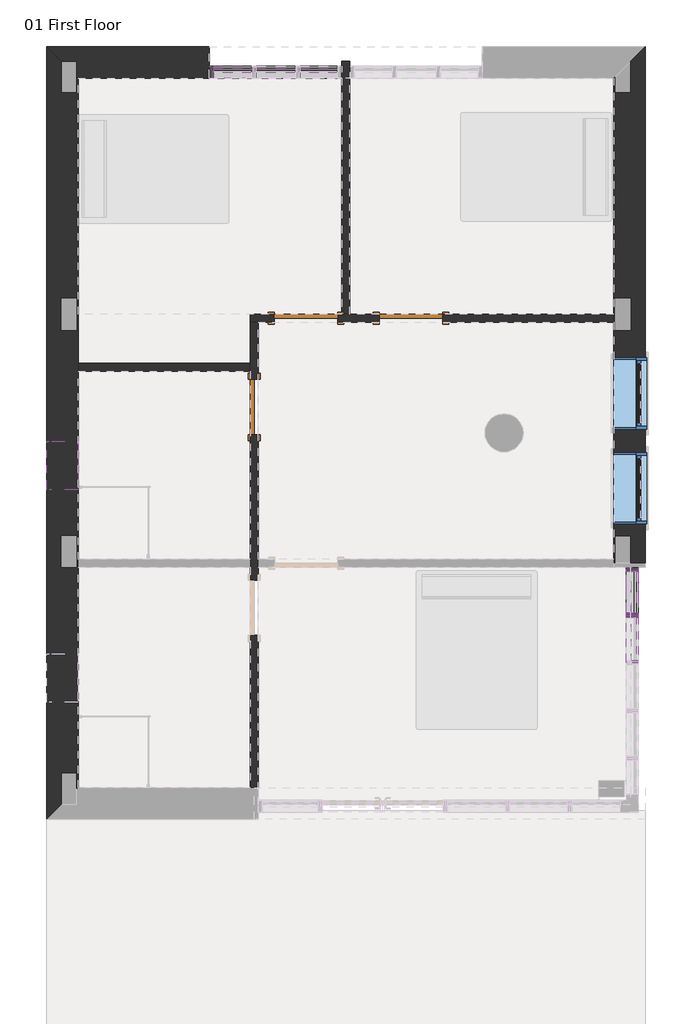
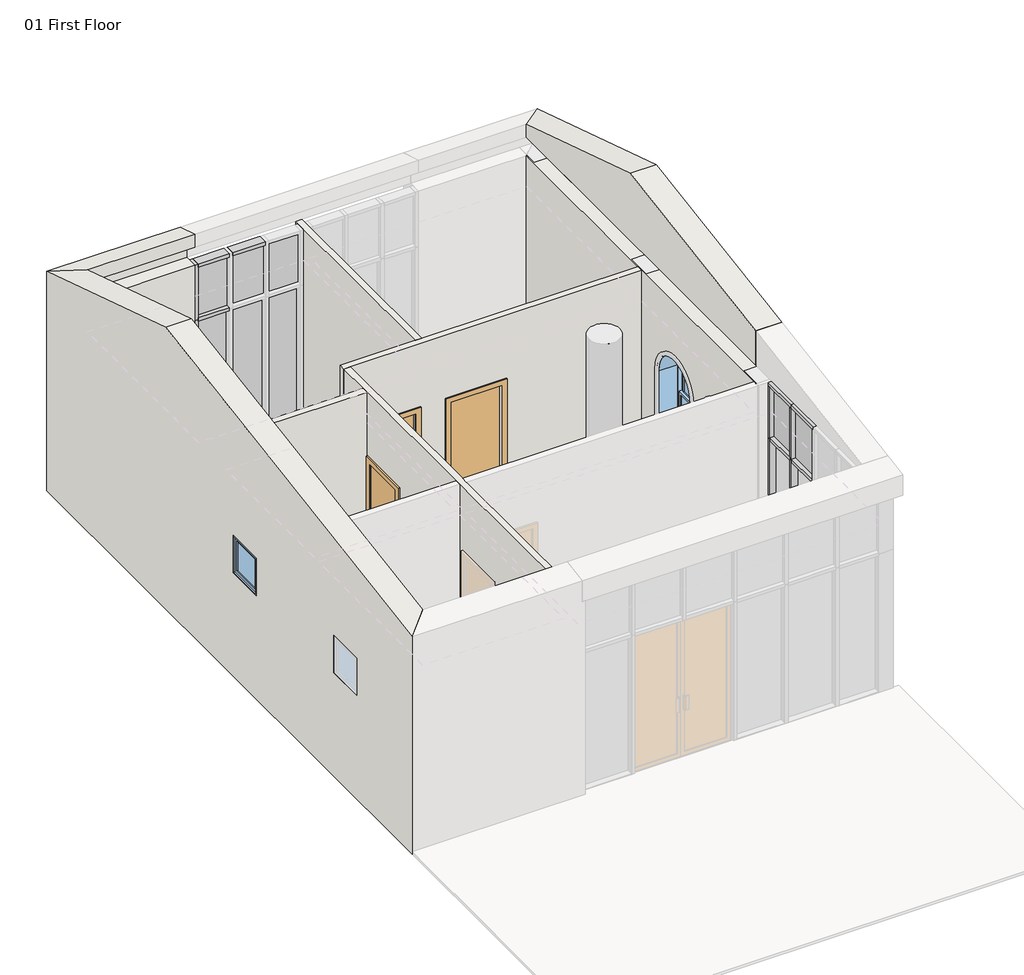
# One storey, part 2 of 3: 17 members, 8 plates, 7 walls, 3 doors, 3 windows.
"""IFC4 building model written with IfcOpenShell, lengths in millimetres."""

from ifc_helpers import new_model, si_unit, frame, origin, place, context, project, spatial, polyline, circle_curve, outline, extrude, faceted_brep, transform, mapped, element, save
from ifc_brep_helpers import plane_surface, revolved_surface, advanced_brep
from components import m_single_flush_0700_x_2100mm_23326b45, m_single_flush_0800_x_2100mm_e1c1bfab, m_single_flush_0800_x_2100mm_5931a049, rectangular_mullion_50_x_150mm_8753ce05, rectangular_mullion_50_x_150mm_f70f74d1, rectangular_mullion_50_x_150mm_f478ca5a, rectangular_mullion_50_x_150mm_324a6438, rectangular_mullion_50_x_150mm_d1e66009, rectangular_mullion_50_x_150mm_6b054e58, rectangular_mullion_50_x_150mm_158f91f9, rectangular_mullion_50_x_150mm_35d6a770, rectangular_mullion_50_x_150mm_7a805af3, rectangular_mullion_50_x_150mm_27f82533, rectangular_mullion_50_x_150mm_15dee4e3, rectangular_mullion_50_x_150mm_af0ba744, rectangular_mullion_50_x_150mm_731e338c, system_panel_glazed_5d80e23d, system_panel_glazed_623b0429, system_panel_solid_e171d4ab, system_panel_solid_d5224606, system_panel_solid_37a388a8, system_panel_solid_d4510be5, m_fixed_0610_x_0610mm_08517cb4, m_window_double_hung_arch_head_900_x_1800mm_510cd141

model = new_model("IFC4")

# Units and contexts
model_context = context("Model", 3, world=origin())
ifc_project = project(units=[si_unit("LENGTHUNIT", "METRE", prefix="MILLI")], contexts=[model_context])

# Site, building, storey
site = spatial("IfcSite", under=ifc_project)
building = spatial("IfcBuilding", under=site)
storey = spatial("IfcBuildingStorey", under=building, Name="01 First Floor", Elevation=3500.0)

# Doors
placement = place(None, origin())
m_single_flush_0700_x_2100mm_shape = m_single_flush_0700_x_2100mm_23326b45(model_context)
element("IfcDoor", 1, ObjectType="M_Single-Flush : 0700 x 2100mm", at=placement, inside=storey, context=model_context, shape_type="MappedRepresentation", body=[
    mapped(m_single_flush_0700_x_2100mm_shape, transform((-5882.5407999, 1965.8732706, 3500.0), x_axis=(0.0, 1.0, 0.0), y_axis=(-1.0, 0.0, 0.0), z_axis=(0.0, 0.0, 1.0))),
])
m_single_flush_0800_x_2100mm_shape = m_single_flush_0800_x_2100mm_e1c1bfab(model_context)
element("IfcDoor", 2, ObjectType="M_Single-Flush : 0800 x 2100mm", at=placement, inside=storey, context=model_context, shape_type="MappedRepresentation", body=[
    mapped(m_single_flush_0800_x_2100mm_shape, transform((-3898.1036851, 3087.4461437, 3500.0), x_axis=(-0.9999999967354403, -8.080296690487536e-05, 0.0), y_axis=(8.080296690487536e-05, -0.9999999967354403, 0.0), z_axis=(0.0, 0.0, 1.0))),
])
m_single_flush_0800_x_2100mm_2_shape = m_single_flush_0800_x_2100mm_5931a049(model_context)
element("IfcDoor", 3, ObjectType="M_Single-Flush : 0800 x 2100mm", at=placement, inside=storey, context=model_context, shape_type="MappedRepresentation", body=[
    mapped(m_single_flush_0800_x_2100mm_2_shape, transform((-5227.2000094, 3087.3387487, 3500.0), x_axis=(0.9999999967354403, 8.080296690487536e-05, 0.0), y_axis=(-8.080296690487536e-05, 0.9999999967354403, 0.0), z_axis=(0.0, 0.0, 1.0))),
])

# Members
rectangular_mullion_50_x_150mm_shape = rectangular_mullion_50_x_150mm_8753ce05(model_context)
element("IfcMember", 4, ObjectType="Rectangular Mullion : 50 x 150mm", at=placement, inside=storey, context=model_context, shape_type="MappedRepresentation", body=[
    mapped(rectangular_mullion_50_x_150mm_shape, transform((-6447.5407999, 6199.2898352, 5800.0), x_axis=(-1.0, 0.0, 0.0), y_axis=(0.0, -1.0, 0.0), z_axis=(0.0, 0.0, 1.0))),
])
rectangular_mullion_50_x_150mm_2_shape = rectangular_mullion_50_x_150mm_f70f74d1(model_context)
element("IfcMember", 5, ObjectType="Rectangular Mullion : 50 x 150mm", at=placement, inside=storey, context=model_context, shape_type="MappedRepresentation", body=[
    mapped(rectangular_mullion_50_x_150mm_2_shape, transform((-1102.5407999, -666.7101649, 3500.0), x_axis=(0.0, 1.0, 0.0), y_axis=(1.0, 0.0, 0.0), z_axis=(0.0, 0.0, -1.0))),
])
element("IfcMember", 6, ObjectType="Rectangular Mullion : 50 x 150mm", at=placement, inside=storey, context=model_context, shape_type="MappedRepresentation", body=[
    mapped(rectangular_mullion_50_x_150mm_shape, transform((-1102.5407999, -62.7101648, 3500.0), x_axis=(0.0, 1.0, 0.0), y_axis=(1.0, 0.0, 0.0), z_axis=(0.0, 0.0, -1.0))),
])
rectangular_mullion_50_x_150mm_3_shape = rectangular_mullion_50_x_150mm_f478ca5a(model_context)
element("IfcMember", 7, ObjectType="Rectangular Mullion : 50 x 150mm", at=placement, inside=storey, context=model_context, shape_type="MappedRepresentation", body=[
    mapped(rectangular_mullion_50_x_150mm_3_shape, transform((-1102.5407999, -666.7101649, 5800.0), x_axis=(0.0, 1.0, 0.0), y_axis=(1.0, 0.0, 0.0), z_axis=(0.0, 0.0, -1.0))),
])
rectangular_mullion_50_x_150mm_4_shape = rectangular_mullion_50_x_150mm_324a6438(model_context)
element("IfcMember", 8, ObjectType="Rectangular Mullion : 50 x 150mm", at=placement, inside=storey, context=model_context, shape_type="MappedRepresentation", body=[
    mapped(rectangular_mullion_50_x_150mm_4_shape, transform((-1102.5407999, -62.7101648, 5800.0), x_axis=(0.0, 1.0, 0.0), y_axis=(1.0, 0.0, 0.0), z_axis=(0.0, 0.0, -1.0))),
])
rectangular_mullion_50_x_150mm_5_shape = rectangular_mullion_50_x_150mm_d1e66009(model_context)
element("IfcMember", 9, ObjectType="Rectangular Mullion : 50 x 150mm", at=placement, inside=storey, context=model_context, shape_type="MappedRepresentation", body=[
    mapped(rectangular_mullion_50_x_150mm_5_shape, transform((-5914.2074665, 6199.2898352, 6700.0), x_axis=(0.0, 0.0, 1.0), y_axis=(0.0, -1.0, 0.0), z_axis=(1.0, 0.0, 0.0))),
])
rectangular_mullion_50_x_150mm_6_shape = rectangular_mullion_50_x_150mm_6b054e58(model_context)
element("IfcMember", 10, ObjectType="Rectangular Mullion : 50 x 150mm", at=placement, inside=storey, context=model_context, shape_type="MappedRepresentation", body=[
    mapped(rectangular_mullion_50_x_150mm_6_shape, transform((-5355.8741334, 6199.2898352, 6700.0), x_axis=(0.0, 0.0, 1.0), y_axis=(0.0, -1.0, 0.0), z_axis=(1.0, 0.0, 0.0))),
])
element("IfcMember", 11, ObjectType="Rectangular Mullion : 50 x 150mm", at=placement, inside=storey, context=model_context, shape_type="MappedRepresentation", body=[
    mapped(rectangular_mullion_50_x_150mm_5_shape, transform((-6397.5407999, 6199.2898352, 3500.0), x_axis=(0.0, 0.0, -1.0), y_axis=(0.0, -1.0, 0.0), z_axis=(-1.0, 0.0, 0.0))),
])
element("IfcMember", 12, ObjectType="Rectangular Mullion : 50 x 150mm", at=placement, inside=storey, context=model_context, shape_type="MappedRepresentation", body=[
    mapped(rectangular_mullion_50_x_150mm_5_shape, transform((-5305.8741334, 6199.2898352, 3500.0), x_axis=(0.0, 0.0, -1.0), y_axis=(0.0, -1.0, 0.0), z_axis=(-1.0, 0.0, 0.0))),
])
element("IfcMember", 13, ObjectType="Rectangular Mullion : 50 x 150mm", at=placement, inside=storey, context=model_context, shape_type="MappedRepresentation", body=[
    mapped(rectangular_mullion_50_x_150mm_6_shape, transform((-5864.2074665, 6199.2898352, 3500.0), x_axis=(0.0, 0.0, -1.0), y_axis=(0.0, -1.0, 0.0), z_axis=(-1.0, 0.0, 0.0))),
])
rectangular_mullion_50_x_150mm_7_shape = rectangular_mullion_50_x_150mm_158f91f9(model_context)
element("IfcMember", 14, ObjectType="Rectangular Mullion : 50 x 150mm", at=placement, inside=storey, context=model_context, shape_type="MappedRepresentation", body=[
    mapped(rectangular_mullion_50_x_150mm_7_shape, transform((-5914.2074665, 6199.2898352, 5800.0), x_axis=(0.0, 0.0, 1.0), y_axis=(0.0, -1.0, 0.0), z_axis=(1.0, 0.0, 0.0))),
])
rectangular_mullion_50_x_150mm_8_shape = rectangular_mullion_50_x_150mm_35d6a770(model_context)
element("IfcMember", 15, ObjectType="Rectangular Mullion : 50 x 150mm", at=placement, inside=storey, context=model_context, shape_type="MappedRepresentation", body=[
    mapped(rectangular_mullion_50_x_150mm_8_shape, transform((-6447.5407999, 6199.2898352, 6700.0), x_axis=(-1.0, 0.0, 0.0), y_axis=(0.0, -1.0, 0.0), z_axis=(0.0, 0.0, 1.0))),
])
rectangular_mullion_50_x_150mm_9_shape = rectangular_mullion_50_x_150mm_7a805af3(model_context)
element("IfcMember", 16, ObjectType="Rectangular Mullion : 50 x 150mm", at=placement, inside=storey, context=model_context, shape_type="MappedRepresentation", body=[
    mapped(rectangular_mullion_50_x_150mm_9_shape, transform((-1102.5407999, -62.7101648, 6700.0), x_axis=(0.0, 0.0, 1.0), y_axis=(1.0, 0.0, 0.0), z_axis=(0.0, 1.0, 0.0))),
])
rectangular_mullion_50_x_150mm_10_shape = rectangular_mullion_50_x_150mm_27f82533(model_context)
element("IfcMember", 17, ObjectType="Rectangular Mullion : 50 x 150mm", at=placement, inside=storey, context=model_context, shape_type="MappedRepresentation", body=[
    mapped(rectangular_mullion_50_x_150mm_10_shape, transform((-1102.5407999, -666.7101649, 6700.0), x_axis=(0.0, 0.0, 1.0), y_axis=(1.0, 0.0, 0.0), z_axis=(0.0, 1.0, 0.0))),
])
rectangular_mullion_50_x_150mm_11_shape = rectangular_mullion_50_x_150mm_15dee4e3(model_context)
element("IfcMember", 18, ObjectType="Rectangular Mullion : 50 x 150mm", at=placement, inside=storey, context=model_context, shape_type="MappedRepresentation", body=[
    mapped(rectangular_mullion_50_x_150mm_11_shape, transform((-1102.5407999, -641.7101649, 3500.0), x_axis=(0.0, 0.0, -1.0), y_axis=(1.0, 0.0, 0.0), z_axis=(0.0, -1.0, 0.0))),
])
rectangular_mullion_50_x_150mm_12_shape = rectangular_mullion_50_x_150mm_af0ba744(model_context)
element("IfcMember", 19, ObjectType="Rectangular Mullion : 50 x 150mm", at=placement, inside=storey, context=model_context, shape_type="MappedRepresentation", body=[
    mapped(rectangular_mullion_50_x_150mm_12_shape, transform((-1102.5407999, -691.7101649, 5800.0), x_axis=(0.0, 0.0, 1.0), y_axis=(1.0, 0.0, 0.0), z_axis=(0.0, 1.0, 0.0))),
])
rectangular_mullion_50_x_150mm_13_shape = rectangular_mullion_50_x_150mm_731e338c(model_context)
element("IfcMember", 20, ObjectType="Rectangular Mullion : 50 x 150mm", at=placement, inside=storey, context=model_context, shape_type="MappedRepresentation", body=[
    mapped(rectangular_mullion_50_x_150mm_13_shape, transform((-1102.5407999, -112.7101648, 5800.0), x_axis=(0.0, 0.0, 1.0), y_axis=(1.0, 0.0, 0.0), z_axis=(0.0, 1.0, 0.0))),
])

# Plates
system_panel_glazed_shape = system_panel_glazed_5d80e23d(model_context)
element("IfcPlate", 21, ObjectType="System Panel : Glazed", at=placement, inside=storey, context=model_context, shape_type="MappedRepresentation", body=[
    mapped(system_panel_glazed_shape, transform((-6155.8741332, 6199.2898352, 3550.0), x_axis=(1.0, 0.0, 0.0), y_axis=(0.0, 1.0, 0.0), z_axis=(0.0, 0.0, 1.0))),
])
element("IfcPlate", 22, ObjectType="System Panel : Glazed", at=placement, inside=storey, context=model_context, shape_type="MappedRepresentation", body=[
    mapped(system_panel_glazed_shape, transform((-5064.2074667, 6199.2898352, 3550.0), x_axis=(1.0, 0.0, 0.0), y_axis=(0.0, 1.0, 0.0), z_axis=(0.0, 0.0, 1.0))),
])
system_panel_glazed_2_shape = system_panel_glazed_623b0429(model_context)
element("IfcPlate", 23, ObjectType="System Panel : Glazed", at=placement, inside=storey, context=model_context, shape_type="MappedRepresentation", body=[
    mapped(system_panel_glazed_2_shape, transform((-5610.0407999, 6199.2898352, 3550.0), x_axis=(1.0, 0.0, 0.0), y_axis=(0.0, 1.0, 0.0), z_axis=(0.0, 0.0, 1.0))),
])
system_panel_solid_shape = system_panel_solid_e171d4ab(model_context)
element("IfcPlate", 24, ObjectType="System Panel : Solid", at=placement, inside=storey, context=model_context, shape_type="MappedRepresentation", body=[
    mapped(system_panel_solid_shape, transform((-6155.8741332, 6199.2898352, 5825.0), x_axis=(1.0, 0.0, 0.0), y_axis=(0.0, 1.0, 0.0), z_axis=(0.0, 0.0, 1.0))),
])
element("IfcPlate", 25, ObjectType="System Panel : Solid", at=placement, inside=storey, context=model_context, shape_type="MappedRepresentation", body=[
    mapped(system_panel_solid_shape, transform((-5064.2074667, 6199.2898352, 5825.0), x_axis=(1.0, 0.0, 0.0), y_axis=(0.0, 1.0, 0.0), z_axis=(0.0, 0.0, 1.0))),
])
system_panel_solid_2_shape = system_panel_solid_d5224606(model_context)
element("IfcPlate", 26, ObjectType="System Panel : Solid", at=placement, inside=storey, context=model_context, shape_type="MappedRepresentation", body=[
    mapped(system_panel_solid_2_shape, transform((-5610.0407999, 6199.2898352, 5825.0), x_axis=(1.0, 0.0, 0.0), y_axis=(0.0, 1.0, 0.0), z_axis=(0.0, 0.0, 1.0))),
])
system_panel_solid_3_shape = system_panel_solid_37a388a8(model_context)
element("IfcPlate", 27, ObjectType="System Panel : Solid", at=placement, inside=storey, context=model_context, shape_type="MappedRepresentation", body=[
    mapped(system_panel_solid_3_shape, transform((-1102.5407999, -968.7101649, 5825.0), x_axis=(0.0, 1.0, 0.0), y_axis=(-1.0, 0.0, 0.0), z_axis=(0.0, 0.0, 1.0))),
])
system_panel_solid_4_shape = system_panel_solid_d4510be5(model_context)
element("IfcPlate", 28, ObjectType="System Panel : Solid", at=placement, inside=storey, context=model_context, shape_type="MappedRepresentation", body=[
    mapped(system_panel_solid_4_shape, transform((-1102.5407999, -377.2101649, 5825.0), x_axis=(0.0, 1.0, 0.0), y_axis=(-1.0, 0.0, 0.0), z_axis=(0.0, 0.0, 1.0))),
])

# Walls
element("IfcWall", 29, ObjectType="Exterior - Brick on CMU", at=placement, inside=storey, context=model_context, shape_type="Brep", body=[
    faceted_brep([(-8109.5407999, 6124.2898352, 7211.3913043), (-8109.5407999, 3337.2898352, 8100.0), (-8109.5407999, -2849.7101648, 7106.4671533), (-8109.5407999, -2849.7101648, 7000.0), (-8109.5407999, 6124.2898352, 7000.0), (-8109.5407999, -2849.7101648, 3500.0), (-8109.5407999, -62.7101648, 3500.0), (-8109.5407999, 37.2898352, 3500.0), (-8109.5407999, 2415.8732706, 3500.0), (-8109.5407999, 2515.8732706, 3500.0), (-8109.5407999, 6124.2898352, 3500.0), (-8109.5407999, 6124.2898352, 6700.0), (-8109.5407999, 2515.8732706, 6700.0), (-8109.5407999, 2415.8732706, 6700.0), (-8109.5407999, 37.2898352, 6700.0), (-8109.5407999, -62.7101648, 6700.0), (-8109.5407999, -2849.7101648, 6700.0), (-8109.5407999, 921.5815529, 5190.0), (-8109.5407999, 921.5815529, 5800.0), (-8109.5407999, 1531.5815529, 5800.0), (-8109.5407999, 1531.5815529, 5190.0), (-8109.5407999, -1767.7101648, 5190.0), (-8109.5407999, -1767.7101648, 5800.0), (-8109.5407999, -1157.7101648, 5800.0), (-8109.5407999, -1157.7101648, 5190.0), (-8507.5407999, 6522.2898352, 3500.0), (-8507.5407999, -3247.7101648, 3500.0), (-8507.5407999, -3247.7101648, 7042.5547445), (-8507.5407999, 3337.2898352, 8100.0), (-8507.5407999, 6522.2898352, 7084.4927536), (-8507.5407999, 921.5815529, 5800.0), (-8507.5407999, 921.5815529, 5190.0), (-8507.5407999, 1531.5815529, 5190.0), (-8507.5407999, 1531.5815529, 5800.0), (-8507.5407999, -1767.7101648, 5800.0), (-8507.5407999, -1767.7101648, 5190.0), (-8507.5407999, -1157.7101648, 5190.0), (-8507.5407999, -1157.7101648, 5800.0), (-8122.5407999, -2862.7101648, 3500.0), (-8122.5407999, -2662.7101648, 3500.0), (-8322.5407999, -2662.7101648, 3500.0), (-8322.5407999, -3062.7101648, 3500.0), (-8322.5407999, 6337.2898352, 3500.0), (-8322.5407999, 5937.2898352, 3500.0), (-8122.5407999, 5937.2898352, 3500.0), (-8122.5407999, 6137.2898352, 3500.0), (-8322.5407999, 2937.2898352, 3500.0), (-8122.5407999, 2937.2898352, 3500.0), (-8122.5407999, 3337.2898352, 3500.0), (-8322.5407999, 3337.2898352, 3500.0), (-8322.5407999, -62.7101648, 3500.0), (-8122.5407999, -62.7101648, 3500.0), (-8122.5407999, 337.2898352, 3500.0), (-8322.5407999, 337.2898352, 3500.0), (-8322.5407999, -3062.7101648, 7000.0), (-8122.5407999, -2862.7101648, 6700.0), (-8322.5407999, 6337.2898352, 7000.0), (-8122.5407999, 6137.2898352, 6700.0), (-8322.5407999, 2937.2898352, 6700.0), (-8122.5407999, 2937.2898352, 6700.0), (-8322.5407999, -2662.7101648, 6700.0), (-8322.5407999, -62.7101648, 6700.0), (-8322.5407999, 337.2898352, 6700.0), (-8322.5407999, 3337.2898352, 6700.0), (-8322.5407999, 5937.2898352, 6700.0), (-8122.5407999, 3337.2898352, 6700.0), (-8122.5407999, -62.7101648, 6700.0), (-8122.5407999, 337.2898352, 6700.0), (-8122.5407999, -2662.7101648, 6700.0), (-8122.5407999, 5937.2898352, 6700.0)], [[[0, 1, 2, 3, 4]], [[5, 6, 7, 8, 9, 10, 11, 12, 13, 14, 15, 16], [17, 18, 19, 20], [21, 22, 23, 24]], [[25, 26, 27, 28, 29], [30, 31, 32, 33], [34, 35, 36, 37]], [[10, 9, 8, 7, 6, 5, 38, 39, 40, 41, 26, 25, 42, 43, 44, 45], [46, 47, 48, 49], [50, 51, 52, 53]], [[2, 27, 26, 41, 54, 3]], [[38, 5, 16, 55]], [[25, 29, 0, 4, 56, 42]], [[10, 45, 57, 11]], [[47, 46, 58, 59]], [[60, 61, 50, 53, 62, 58, 46, 49, 63, 64, 43, 42, 56, 54, 41, 40]], [[49, 48, 65, 63]], [[54, 56, 4, 3]], [[51, 50, 61, 66]], [[53, 52, 67, 62]], [[40, 39, 68, 60]], [[44, 43, 64, 69]], [[58, 62, 67, 66, 61, 60, 68, 55, 16, 15, 14, 13, 12, 11, 57, 69, 64, 63, 65, 59]], [[27, 2, 1, 28]], [[0, 29, 28, 1]], [[18, 17, 31, 30]], [[19, 18, 30, 33]], [[20, 19, 33, 32]], [[17, 20, 32, 31]], [[22, 21, 35, 34]], [[23, 22, 34, 37]], [[24, 23, 37, 36]], [[21, 24, 36, 35]], [[48, 47, 59, 65]], [[52, 51, 66, 67]], [[39, 38, 55, 68]], [[45, 44, 69, 57]]]),
])
element("IfcWall", 30, ObjectType="Exterior - Brick on CMU", at=placement, inside=storey, context=model_context, shape_type="AdvancedBrep", body=[
    advanced_brep(
    [(-937.5407999, -12.7101648, 3500.0), (-937.5407999, 6522.2898352, 3500.0), (-937.5407999, 6522.2898352, 7084.4927536), (-937.5407999, 3337.2898352, 8100.0), (-937.5407999, -12.7101648, 7562.0437956), (-937.5407999, 2586.7898352, 5350.0), (-937.5407999, 2586.7898352, 4000.0), (-937.5407999, 1686.7898352, 4000.0), (-937.5407999, 1686.7898352, 5350.0), (-937.5407999, 1386.7898352, 5350.0), (-937.5407999, 1386.7898352, 4000.0), (-937.5407999, 486.7898352, 4000.0), (-937.5407999, 486.7898352, 5350.0), (-1335.5407999, 6124.2898352, 3500.0), (-1335.5407999, 3137.6532065, 3500.0), (-1335.5407999, 3037.6532062, 3500.0), (-1335.5407999, 37.2898352, 3500.0), (-1335.5407999, -12.7101648, 3500.0), (-1335.5407999, -12.7101648, 6700.0), (-1335.5407999, 37.2898352, 6700.0), (-1335.5407999, 3037.6532062, 6700.0), (-1335.5407999, 3137.6532065, 6700.0), (-1335.5407999, 6124.2898352, 6700.0), (-1335.5407999, 2586.7898352, 4000.0), (-1335.5407999, 2586.7898352, 5350.0), (-1335.5407999, 1686.7898352, 5350.0), (-1335.5407999, 1686.7898352, 4000.0), (-1335.5407999, 1386.7898352, 4000.0), (-1335.5407999, 1386.7898352, 5350.0), (-1335.5407999, 486.7898352, 5350.0), (-1335.5407999, 486.7898352, 4000.0), (-1335.5407999, -12.7101648, 7562.0437956), (-1335.5407999, 3337.2898352, 8100.0), (-1335.5407999, 6124.2898352, 7211.3913043), (-1335.5407999, 6124.2898352, 7000.0), (-1335.5407999, -12.7101648, 7000.0), (-1122.5407999, -12.7101648, 3500.0), (-1122.5407999, 337.2898352, 3500.0), (-1322.5407999, 337.2898352, 3500.0), (-1322.5407999, -12.7101648, 3500.0), (-1322.5407999, 6137.2898352, 3500.0), (-1322.5407999, 5937.2898352, 3500.0), (-1122.5407999, 5937.2898352, 3500.0), (-1122.5407999, 6337.2898352, 3500.0), (-1122.5407999, 2937.2898352, 3500.0), (-1122.5407999, 3337.2898352, 3500.0), (-1322.5407999, 3337.2898352, 3500.0), (-1322.5407999, 2937.2898352, 3500.0), (-1122.5407999, 5937.2898352, 6700.0), (-1122.5407999, 3337.2898352, 6700.0), (-1122.5407999, 2937.2898352, 6700.0), (-1122.5407999, 337.2898352, 6700.0), (-1122.5407999, -12.7101648, 6700.0), (-1122.5407999, -12.7101648, 7000.0), (-1122.5407999, 6337.2898352, 7000.0), (-1322.5407999, 2937.2898352, 6700.0), (-1322.5407999, 3337.2898352, 6700.0), (-1322.5407999, 337.2898352, 6700.0), (-1322.5407999, -12.7101648, 6700.0), (-1322.5407999, 5937.2898352, 6700.0), (-1322.5407999, 6137.2898352, 6700.0)],
    [
        (0, 1),
        (1, 2),
        (2, 3),
        (3, 4),
        (4, 0),
        (5, 6),
        (6, 7),
        (7, 8),
        (8, 5, circle_curve(frame((-937.5407999, 2136.7898352, 5350.0), z_axis=(-1.0, 0.0, 0.0), x_axis=(0.0, -1.0, 0.0)), 450.0)),
        (9, 10),
        (10, 11),
        (11, 12),
        (12, 9, circle_curve(frame((-937.5407999, 936.7898352, 5350.0), z_axis=(-1.0, 0.0, 0.0), x_axis=(0.0, -1.0, 0.0)), 450.0)),
        (13, 14),
        (14, 15),
        (15, 16),
        (16, 17),
        (17, 18),
        (18, 19),
        (19, 20),
        (20, 21),
        (21, 22),
        (22, 13),
        (23, 24),
        (24, 25, circle_curve(frame((-1335.5407999, 2136.7898352, 5350.0), z_axis=(1.0, 0.0, 0.0), x_axis=(0.0, -1.0, 0.0)), 450.0)),
        (25, 26),
        (26, 23),
        (27, 28),
        (28, 29, circle_curve(frame((-1335.5407999, 936.7898352, 5350.0), z_axis=(1.0, 0.0, 0.0), x_axis=(0.0, -1.0, 0.0)), 450.0)),
        (29, 30),
        (30, 27),
        (31, 32),
        (32, 33),
        (33, 34),
        (34, 35),
        (35, 31),
        (0, 36),
        (36, 37),
        (37, 38),
        (38, 39),
        (39, 17),
        (13, 40),
        (40, 41),
        (41, 42),
        (42, 43),
        (43, 1),
        (44, 45),
        (45, 46),
        (46, 47),
        (47, 44),
        (42, 48),
        (48, 49),
        (49, 45),
        (44, 50),
        (50, 51),
        (51, 37),
        (36, 52),
        (52, 53),
        (53, 54),
        (54, 43),
        (47, 55),
        (55, 50),
        (46, 56),
        (56, 55),
        (49, 56),
        (53, 35),
        (34, 54),
        (38, 57),
        (57, 58),
        (58, 39),
        (51, 57),
        (41, 59),
        (59, 48),
        (40, 60),
        (60, 59),
        (33, 2),
        (22, 60),
        (18, 58),
        (4, 31),
        (3, 32),
        (5, 24),
        (23, 6),
        (26, 7),
        (25, 8),
        (9, 28),
        (27, 10),
        (30, 11),
        (29, 12),
    ],
    [
        plane_surface(frame((-937.5407999, 5.3142246, 3500.0), z_axis=(1.0, 0.0, 0.0), x_axis=(0.0, 1.0, 0.0))),
        plane_surface(frame((-1335.5407999, 5.3142246, 3500.0), z_axis=(-1.0, 0.0, 0.0), x_axis=(0.0, -1.0, 0.0))),
        plane_surface(frame((-937.5407999, -12.7101648, 3500.0), z_axis=(0.0, 0.0, -1.0), x_axis=(-1.0, 0.0, 0.0))),
        plane_surface(frame((-1122.5407999, 2937.2898352, 7000.0), z_axis=(-1.0, 0.0, 0.0), x_axis=(0.0, 0.0, -1.0))),
        plane_surface(frame((-1322.5407999, 2937.2898352, 7000.0), z_axis=(0.0, 1.0, 0.0), x_axis=(0.0, 0.0, -1.0))),
        plane_surface(frame((-1322.5407999, 3337.2898352, 7000.0), z_axis=(1.0, 0.0, 0.0), x_axis=(0.0, 0.0, -1.0))),
        plane_surface(frame((-1122.5407999, 3337.2898352, 7000.0), z_axis=(0.0, -1.0, 0.0), x_axis=(0.0, 0.0, -1.0))),
        plane_surface(frame((-1322.5407999, 3337.2898352, 7000.0), z_axis=(0.0, 0.0, -1.0), x_axis=(-1.0, 0.0, 0.0))),
        plane_surface(frame((-1322.5407999, 337.2898352, 7000.0), z_axis=(1.0, 0.0, 0.0), x_axis=(0.0, 0.0, -1.0))),
        plane_surface(frame((-1122.5407999, 337.2898352, 7000.0), z_axis=(0.0, -1.0, 0.0), x_axis=(0.0, 0.0, -1.0))),
        plane_surface(frame((-1322.5407999, 5937.2898352, 7000.0), z_axis=(0.0, 1.0, 0.0), x_axis=(0.0, 0.0, -1.0))),
        plane_surface(frame((-1322.5407999, 6337.2898352, 7000.0), z_axis=(1.0, 0.0, 0.0), x_axis=(0.0, 0.0, -1.0))),
        plane_surface(frame((-937.5407999, 6522.2898352, 3500.0), z_axis=(-0.7071067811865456, 0.7071067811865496, 0.0), x_axis=(-0.7071067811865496, -0.7071067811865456, 0.0))),
        plane_surface(frame((4877.4592001, 6337.2898352, 6700.0), z_axis=(0.0, 0.0, 1.0), x_axis=(1.0, 0.0, 0.0))),
        plane_surface(frame((-937.5407999, -12.7101648, 7000.0), z_axis=(0.0, -1.0, 0.0), x_axis=(-1.0, 0.0, 0.0))),
        plane_surface(frame((-672.5407999, -3512.7101648, 7000.0), z_axis=(0.0, -0.1585526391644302, 0.9873505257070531), x_axis=(1.0, 0.0, 0.0))),
        plane_surface(frame((-8787.5407999, 6787.2898352, 7000.0), z_axis=(0.0, 0.30377353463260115, 0.9527442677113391), x_axis=(-1.0, 0.0, 0.0))),
        plane_surface(frame((-937.5407999, 2586.7898352, 5350.0), z_axis=(0.0, -1.0, 0.0), x_axis=(-1.0, 0.0, 0.0))),
        plane_surface(frame((-937.5407999, 2586.7898352, 4000.0), z_axis=(0.0, 0.0, 1.0), x_axis=(-1.0, 0.0, 0.0))),
        plane_surface(frame((-937.5407999, 1686.7898352, 4000.0), z_axis=(0.0, 1.0, 0.0), x_axis=(-1.0, 0.0, 0.0))),
        plane_surface(frame((-937.5407999, 1386.7898352, 5350.0), z_axis=(0.0, -1.0, 0.0), x_axis=(-1.0, 0.0, 0.0))),
        plane_surface(frame((-937.5407999, 1386.7898352, 4000.0), z_axis=(0.0, 0.0, 1.0), x_axis=(-1.0, 0.0, 0.0))),
        plane_surface(frame((-937.5407999, 486.7898352, 4000.0), z_axis=(0.0, 1.0, 0.0), x_axis=(-1.0, 0.0, 0.0))),
        revolved_surface(polyline([(-1335.5407999, 486.78983519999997, 5350.0), (-937.5407999, 486.78983519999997, 5350.0)]), (-1335.5407999, 936.7898352, 5350.0), (-1.0, 0.0, 0.0)),
        revolved_surface(polyline([(-1335.5407999, 1686.7898352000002, 5350.0), (-937.5407999, 1686.7898352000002, 5350.0)]), (-1335.5407999, 2136.7898352, 5350.0), (-1.0, 0.0, 0.0)),
    ],
    [
        (0, [[1, 2, 3, 4, 5], [6, 7, 8, 9], [10, 11, 12, 13]]),
        (1, [[14, 15, 16, 17, 18, 19, 20, 21, 22, 23], [24, 25, 26, 27], [28, 29, 30, 31]]),
        (1, [[32, 33, 34, 35, 36]]),
        (2, [[-1, 37, 38, 39, 40, 41, -17, -16, -15, -14, 42, 43, 44, 45, 46], [47, 48, 49, 50]]),
        (3, [[-45, 51, 52, 53, -47, 54, 55, 56, -38, 57, 58, 59, 60]]),
        (4, [[-50, 61, 62, -54]]),
        (5, [[-49, 63, 64, -61]]),
        (6, [[-48, -53, 65, -63]]),
        (7, [[-59, 66, -35, 67]]),
        (8, [[-40, 68, 69, 70]]),
        (9, [[-39, -56, 71, -68]]),
        (10, [[-44, 72, 73, -51]]),
        (11, [[-43, 74, 75, -72]]),
        (12, [[-2, -46, -60, -67, -34, 76]]),
        (12, [[-42, -23, 77, -74]]),
        (13, [[-55, -62, -64, -65, -52, -73, -75, -77, -22, -21, -20, -19, 78, -69, -71]]),
        (14, [[79, -36, -66, -58, -57, -37, -5]]),
        (14, [[-41, -70, -78, -18]]),
        (15, [[-79, -4, 80, -32]]),
        (16, [[-76, -33, -80, -3]]),
        (17, [[-6, 81, -24, 82]]),
        (18, [[-7, -82, -27, 83]]),
        (19, [[-8, -83, -26, 84]]),
        (20, [[-10, 85, -28, 86]]),
        (21, [[-11, -86, -31, 87]]),
        (22, [[-12, -87, -30, 88]]),
        (23, [[-13, -88, -29, -85]]),
        (24, [[-9, -84, -25, -81]]),
    ],
),
])
element("IfcWall", 31, ObjectType="Exterior - Brick on CMU", at=placement, inside=storey, context=model_context, shape_type="Brep", body=[
    faceted_brep([(-8109.5407999, 6124.2898352, 3500.0), (-6447.5407999, 6124.2898352, 3500.0), (-6447.5407999, 6124.2898352, 6700.0), (-8109.5407999, 6124.2898352, 6700.0), (-8109.5407999, 6124.2898352, 7000.0), (-6447.5407999, 6124.2898352, 7000.0), (-6447.5407999, 6124.2898352, 7211.3913043), (-8109.5407999, 6124.2898352, 7211.3913043), (-6447.5407999, 6522.2898352, 3500.0), (-8507.5407999, 6522.2898352, 3500.0), (-8507.5407999, 6522.2898352, 7084.4927536), (-6447.5407999, 6522.2898352, 7084.4927536), (-6447.5407999, 6522.2898352, 6700.0), (-8122.5407999, 6137.2898352, 3500.0), (-8122.5407999, 6337.2898352, 3500.0), (-8322.5407999, 6337.2898352, 3500.0), (-6447.5407999, 6337.2898352, 7000.0), (-6447.5407999, 6337.2898352, 6700.0), (-8322.5407999, 6337.2898352, 7000.0), (-8122.5407999, 6137.2898352, 7000.0), (-8122.5407999, 6137.2898352, 6700.0), (-8122.5407999, 6337.2898352, 6700.0)], [[[0, 1, 2, 3]], [[4, 5, 6, 7]], [[8, 9, 10, 11, 12]], [[1, 0, 13, 14, 15, 9, 8]], [[8, 12, 11, 6, 5, 16, 17, 2, 1]], [[10, 9, 15, 18, 19, 4, 7]], [[0, 3, 20, 13]], [[3, 2, 17, 21, 20]], [[5, 4, 19, 18, 16]], [[17, 16, 18, 15, 14, 21]], [[7, 6, 11, 10]], [[21, 14, 13, 20]]]),
])
element("IfcWall", 32, ObjectType="Generic - 100mm", at=placement, inside=storey, context=model_context, shape_type="SweptSolid", body=[
    extrude(outline(polyline([(-5932.5407999, 2415.8732706), (-8109.5407999, 2415.8732706), (-8109.5407999, 2515.8732706), (-5932.5407999, 2515.8732706), (-5932.5407999, 2415.8732706)])), frame((0.0, 0.0, 3500.0), z_axis=(0.0, 0.0, 1.0), x_axis=(1.0, 0.0, 0.0)), (0.0, 0.0, 1.0), 3200.0),
])
element("IfcWall", 33, ObjectType="Generic - 100mm", at=placement, inside=storey, context=model_context, shape_type="SweptSolid", body=[
    extrude(outline(polyline([(-4772.5407999, 3137.3754867), (-4772.5407999, 6337.2898352), (-4672.5407999, 6337.2898352), (-4672.5407999, 3137.383567), (-4772.5407999, 3137.3754867)])), frame((0.0, 0.0, 3500.0), z_axis=(0.0, 0.0, 1.0), x_axis=(1.0, 0.0, 0.0)), (0.0, 0.0, 1.0), 3200.0),
])
element("IfcWall", 34, ObjectType="Generic - 100mm", at=placement, inside=storey, context=model_context, shape_type="Brep", body=[
    faceted_brep([(-4298.1077239, 3137.4138223, 5600.0), (-4298.1077239, 3137.4138223, 3500.0), (-4672.5407999, 3137.383567, 3500.0), (-4772.5407999, 3137.3754867, 3500.0), (-4827.2040508, 3137.3710698, 3500.0), (-4827.2040508, 3137.3710698, 5600.0), (-5627.2040482, 3137.3064274, 5600.0), (-5627.2040482, 3137.3064274, 3500.0), (-5932.5407999, 3137.2817553, 3500.0), (-5932.5407999, 3137.2817553, 6700.0), (-4772.5407999, 3137.3754867, 6700.0), (-4672.5407999, 3137.383567, 6700.0), (-1335.5407999, 3137.6532065, 6700.0), (-1335.5407999, 3137.6532065, 3500.0), (-3498.1077265, 3137.4784647, 3500.0), (-3498.1077265, 3137.4784647, 5600.0), (-4827.1959705, 3037.3710701, 3500.0), (-4298.0996436, 3037.4138226, 3500.0), (-4298.0996436, 3037.4138226, 5600.0), (-3498.0996462, 3037.478465, 5600.0), (-3498.0996462, 3037.478465, 3500.0), (-1335.5407999, 3037.6532062, 3500.0), (-1335.5407999, 3037.6532062, 6700.0), (-5832.5407999, 3037.2898352, 6700.0), (-5932.5407999, 3037.2817549, 6700.0), (-5932.5407999, 3037.2817549, 3500.0), (-5832.5407999, 3037.2898352, 3500.0), (-5627.1959679, 3037.3064277, 3500.0), (-5627.1959679, 3037.3064277, 5600.0), (-4827.1959705, 3037.3710701, 5600.0)], [[[0, 1, 2, 3, 4, 5, 6, 7, 8, 9, 10, 11, 12, 13, 14, 15]], [[16, 17, 18, 19, 20, 21, 22, 23, 24, 25, 26, 27, 28, 29]], [[27, 26, 25, 8, 7]], [[14, 13, 21, 20]], [[4, 3, 2, 1, 17, 16]], [[13, 12, 22, 21]], [[9, 8, 25, 24]], [[12, 11, 10, 9, 24, 23, 22]], [[5, 4, 16, 29]], [[6, 5, 29, 28]], [[7, 6, 28, 27]], [[18, 17, 1, 0]], [[19, 18, 0, 15]], [[20, 19, 15, 14]]]),
])
element("IfcWall", 35, ObjectType="Generic - 100mm", at=placement, inside=storey, context=model_context, shape_type="Brep", body=[
    faceted_brep([(-5932.5407999, 1615.8732706, 3500.0), (-5932.5407999, 37.2898352, 3500.0), (-5932.5407999, -62.7101648, 3500.0), (-5932.5407999, -224.1267294, 3500.0), (-5932.5407999, -224.1267294, 5600.0), (-5932.5407999, -924.1267294, 5600.0), (-5932.5407999, -924.1267294, 3500.0), (-5932.5407999, -2849.7101648, 3500.0), (-5932.5407999, -2849.7101648, 6700.0), (-5932.5407999, -62.7101648, 6700.0), (-5932.5407999, 37.2898352, 6700.0), (-5932.5407999, 2415.8732706, 6700.0), (-5932.5407999, 2515.8732706, 6700.0), (-5932.5407999, 3037.2817549, 6700.0), (-5932.5407999, 3037.2817549, 3500.0), (-5932.5407999, 2515.8732706, 3500.0), (-5932.5407999, 2415.8732706, 3500.0), (-5932.5407999, 2315.8732706, 3500.0), (-5932.5407999, 2315.8732706, 5600.0), (-5932.5407999, 1615.8732706, 5600.0), (-5832.5407999, -224.1267294, 5600.0), (-5832.5407999, -224.1267294, 3500.0), (-5832.5407999, -62.7101648, 3500.0), (-5832.5407999, 37.2898352, 3500.0), (-5832.5407999, 1615.8732706, 3500.0), (-5832.5407999, 1615.8732706, 5600.0), (-5832.5407999, 2315.8732706, 5600.0), (-5832.5407999, 2315.8732706, 3500.0), (-5832.5407999, 3037.2898352, 3500.0), (-5832.5407999, 3037.2898352, 6700.0), (-5832.5407999, 37.2898352, 6700.0), (-5832.5407999, -62.7101648, 6700.0), (-5832.5407999, -2849.7101648, 6700.0), (-5832.5407999, -2849.7101648, 3500.0), (-5832.5407999, -924.1267294, 3500.0), (-5832.5407999, -924.1267294, 5600.0)], [[[0, 1, 2, 3, 4, 5, 6, 7, 8, 9, 10, 11, 12, 13, 14, 15, 16, 17, 18, 19]], [[20, 21, 22, 23, 24, 25, 26, 27, 28, 29, 30, 31, 32, 33, 34, 35]], [[28, 27, 17, 16, 15, 14]], [[34, 33, 7, 6]], [[24, 23, 22, 21, 3, 2, 1, 0]], [[14, 13, 29, 28]], [[8, 7, 33, 32]], [[13, 12, 11, 10, 9, 8, 32, 31, 30, 29]], [[18, 17, 27, 26]], [[19, 18, 26, 25]], [[0, 19, 25, 24]], [[4, 3, 21, 20]], [[5, 4, 20, 35]], [[6, 5, 35, 34]]]),
])

# Windows
m_fixed_0610_x_0610mm_shape = m_fixed_0610_x_0610mm_08517cb4(model_context)
element("IfcWindow", 36, ObjectType="M_Fixed : 0610 x 0610mm", at=placement, inside=storey, context=model_context, shape_type="MappedRepresentation", body=[
    mapped(m_fixed_0610_x_0610mm_shape, transform((-8295.5407999, 1226.5815529, 4275.0), x_axis=(0.0, 1.0, 0.0), y_axis=(-1.0, 0.0, 0.0), z_axis=(0.0, 0.0, 1.0))),
])
m_window_double_hung_arch_head_900_x_1800mm_shape = m_window_double_hung_arch_head_900_x_1800mm_510cd141(model_context)
element("IfcWindow", 37, ObjectType="M_Window-Double-Hung-Arch-Head : 900 x 1800mm", at=placement, inside=storey, context=model_context, shape_type="MappedRepresentation", body=[
    mapped(m_window_double_hung_arch_head_900_x_1800mm_shape, transform((-1136.5407999, 2136.7898352, 3085.6), x_axis=(0.0, -1.0, 0.0), y_axis=(1.0, 0.0, 0.0), z_axis=(0.0, 0.0, 1.0))),
])
element("IfcWindow", 38, ObjectType="M_Window-Double-Hung-Arch-Head : 900 x 1800mm", at=placement, inside=storey, context=model_context, shape_type="MappedRepresentation", body=[
    mapped(m_window_double_hung_arch_head_900_x_1800mm_shape, transform((-1136.5407999, 936.7898352, 3085.6), x_axis=(0.0, -1.0, 0.0), y_axis=(1.0, 0.0, 0.0), z_axis=(0.0, 0.0, 1.0))),
])

save(model, "model.ifc")
